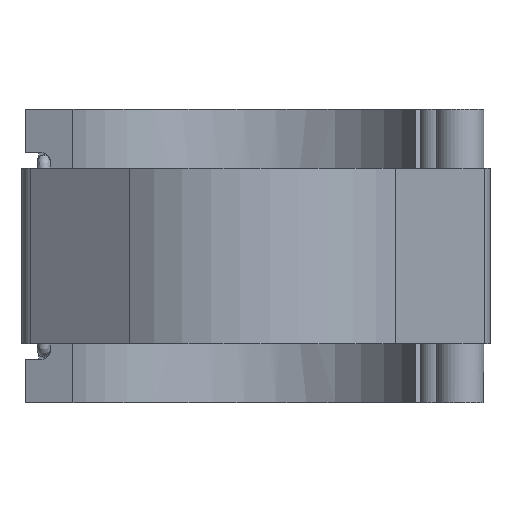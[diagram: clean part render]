
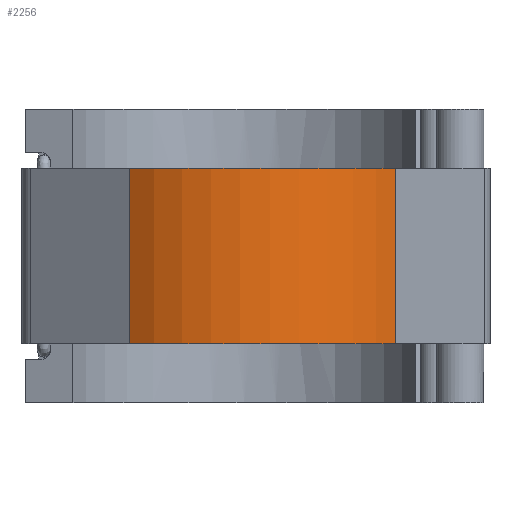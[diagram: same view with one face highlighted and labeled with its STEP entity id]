
A CAD part, front view. The second image highlights one B-rep face of the part: STEP entity #2256.
In plain terms, the highlighted cylindrical face has radius 112.63 mm (diameter 225.261 mm), a partial arc.
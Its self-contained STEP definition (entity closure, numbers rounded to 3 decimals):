
#216=FACE_OUTER_BOUND('',#351,.T.);
#351=EDGE_LOOP('',(#1991,#1992,#1993,#1994));
#447=CIRCLE('',#2420,112.631);
#453=CIRCLE('',#2427,112.631);
#703=LINE('',#4141,#891);
#708=LINE('',#4149,#896);
#891=VECTOR('',#3103,10.);
#896=VECTOR('',#3114,10.);
#1022=VERTEX_POINT('',#3828);
#1023=VERTEX_POINT('',#3830);
#1029=VERTEX_POINT('',#3847);
#1030=VERTEX_POINT('',#3849);
#1275=EDGE_CURVE('',#1022,#1023,#447,.T.);
#1286=EDGE_CURVE('',#1029,#1030,#453,.T.);
#1403=EDGE_CURVE('',#1029,#1023,#703,.T.);
#1408=EDGE_CURVE('',#1022,#1030,#708,.T.);
#1991=ORIENTED_EDGE('',*,*,#1408,.T.);
#1992=ORIENTED_EDGE('',*,*,#1286,.F.);
#1993=ORIENTED_EDGE('',*,*,#1403,.T.);
#1994=ORIENTED_EDGE('',*,*,#1275,.F.);
#2144=CYLINDRICAL_SURFACE('',#2500,112.631);
#2256=ADVANCED_FACE('',(#216),#2144,.T.);
#2420=AXIS2_PLACEMENT_3D('',#3831,#2862,#2863);
#2427=AXIS2_PLACEMENT_3D('',#3850,#2881,#2882);
#2500=AXIS2_PLACEMENT_3D('',#4150,#3115,#3116);
#2862=DIRECTION('center_axis',(0.,0.,-1.));
#2863=DIRECTION('ref_axis',(0.611,0.791,0.));
#2881=DIRECTION('center_axis',(0.,0.,1.));
#2882=DIRECTION('ref_axis',(0.611,0.791,0.));
#3103=DIRECTION('',(0.,0.,-1.));
#3114=DIRECTION('',(0.,0.,1.));
#3115=DIRECTION('center_axis',(0.,0.,1.));
#3116=DIRECTION('ref_axis',(0.611,0.791,0.));
#3828=CARTESIAN_POINT('',(90.785,-66.661,-52.807));
#3830=CARTESIAN_POINT('',(-68.871,-89.121,-52.807));
#3831=CARTESIAN_POINT('Origin',(0.,0.,
-52.807));
#3847=CARTESIAN_POINT('',(-68.871,-89.121,52.807));
#3849=CARTESIAN_POINT('',(90.785,-66.661,52.807));
#3850=CARTESIAN_POINT('Origin',(0.,0.,
52.807));
#4141=CARTESIAN_POINT('',(-68.871,-89.121,0.));
#4149=CARTESIAN_POINT('',(90.785,-66.661,0.));
#4150=CARTESIAN_POINT('Origin',(0.,0.,
0.));
